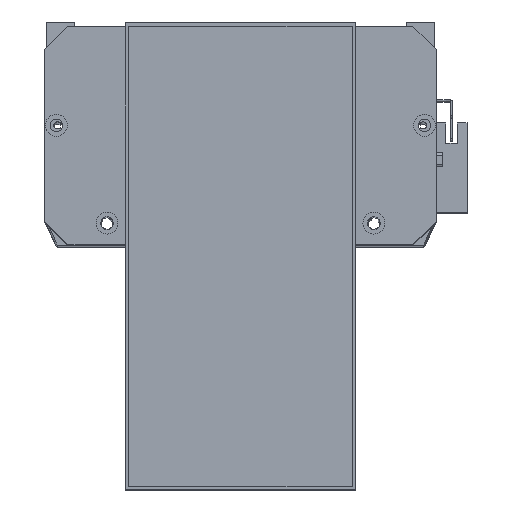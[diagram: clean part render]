
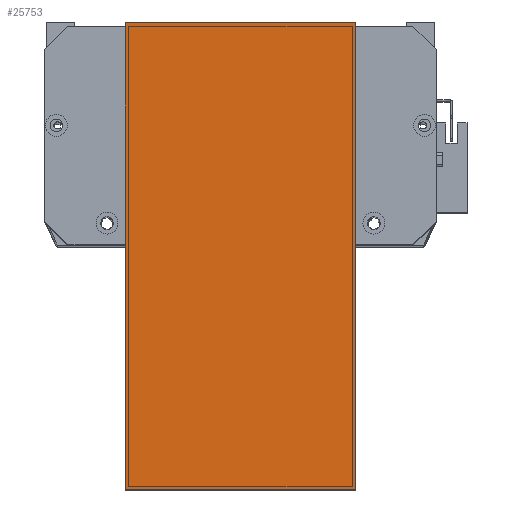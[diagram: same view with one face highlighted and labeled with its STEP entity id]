
A CAD part, top view. The second image highlights one B-rep face of the part: STEP entity #25753.
In plain terms, the highlighted planar face has unit normal (0, 0, 1) as drawn and (0, 0, -1) by its records, which use the part's own axes.
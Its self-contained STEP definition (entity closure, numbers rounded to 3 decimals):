
#688 = CARTESIAN_POINT ( 'NONE',  ( 0., 119.5, 0. ) ) ;
#2491 = EDGE_CURVE ( 'NONE', #6999, #2521, #22144, .T. ) ;
#2521 = VERTEX_POINT ( 'NONE', #10231 ) ;
#2750 = VECTOR ( 'NONE', #15548, 1000. ) ;
#5183 = EDGE_CURVE ( 'NONE', #14316, #2521, #8436, .T. ) ;
#6959 = CARTESIAN_POINT ( 'NONE',  ( -12., 119.5, 0. ) ) ;
#6999 = VERTEX_POINT ( 'NONE', #7182 ) ;
#7182 = CARTESIAN_POINT ( 'NONE',  ( 203., 19.5, 0. ) ) ;
#7315 = EDGE_CURVE ( 'NONE', #14316, #12967, #24304, .T. ) ;
#8436 = LINE ( 'NONE', #6959, #2750 ) ;
#9044 = DIRECTION ( 'NONE',  ( 1., 0., 0. ) ) ;
#9737 = FACE_OUTER_BOUND ( 'NONE', #12376, .T. ) ;
#10231 = CARTESIAN_POINT ( 'NONE',  ( 203., 119.5, 0. ) ) ;
#10876 = DIRECTION ( 'NONE',  ( 0., 0., -1. ) ) ;
#11330 = LINE ( 'NONE', #17461, #21979 ) ;
#12376 = EDGE_LOOP ( 'NONE', ( #22720, #16116, #24228, #13285 ) ) ;
#12967 = VERTEX_POINT ( 'NONE', #20544 ) ;
#13285 = ORIENTED_EDGE ( 'NONE', *, *, #2491, .F. ) ;
#14316 = VERTEX_POINT ( 'NONE', #688 ) ;
#15548 = DIRECTION ( 'NONE',  ( 1., 0., 0. ) ) ;
#16116 = ORIENTED_EDGE ( 'NONE', *, *, #7315, .F. ) ;
#17461 = CARTESIAN_POINT ( 'NONE',  ( -12., 19.5, 0. ) ) ;
#18656 = VECTOR ( 'NONE', #27478, 1000. ) ;
#18917 = EDGE_CURVE ( 'NONE', #12967, #6999, #11330, .T. ) ;
#19349 = PLANE ( 'NONE',  #26552 ) ;
#20544 = CARTESIAN_POINT ( 'NONE',  ( 0., 19.5, 0. ) ) ;
#20659 = CARTESIAN_POINT ( 'NONE',  ( 203., 0., 0. ) ) ;
#21979 = VECTOR ( 'NONE', #9044, 1000. ) ;
#22144 = LINE ( 'NONE', #20659, #27135 ) ;
#22720 = ORIENTED_EDGE ( 'NONE', *, *, #18917, .F. ) ;
#23182 = CARTESIAN_POINT ( 'NONE',  ( 0., 0., 0. ) ) ;
#23597 = CARTESIAN_POINT ( 'NONE',  ( 0., 0., 0. ) ) ;
#24228 = ORIENTED_EDGE ( 'NONE', *, *, #5183, .T. ) ;
#24304 = LINE ( 'NONE', #23182, #18656 ) ;
#25753 = ADVANCED_FACE ( 'NONE', ( #9737 ), #19349, .T. ) ;
#25767 = DIRECTION ( 'NONE',  ( -1., 0., 0. ) ) ;
#26552 = AXIS2_PLACEMENT_3D ( 'NONE', #23597, #10876, #25767 ) ;
#27088 = DIRECTION ( 'NONE',  ( 0., 1., 0. ) ) ;
#27135 = VECTOR ( 'NONE', #27088, 1000. ) ;
#27478 = DIRECTION ( 'NONE',  ( 0., -1., 0. ) ) ;
